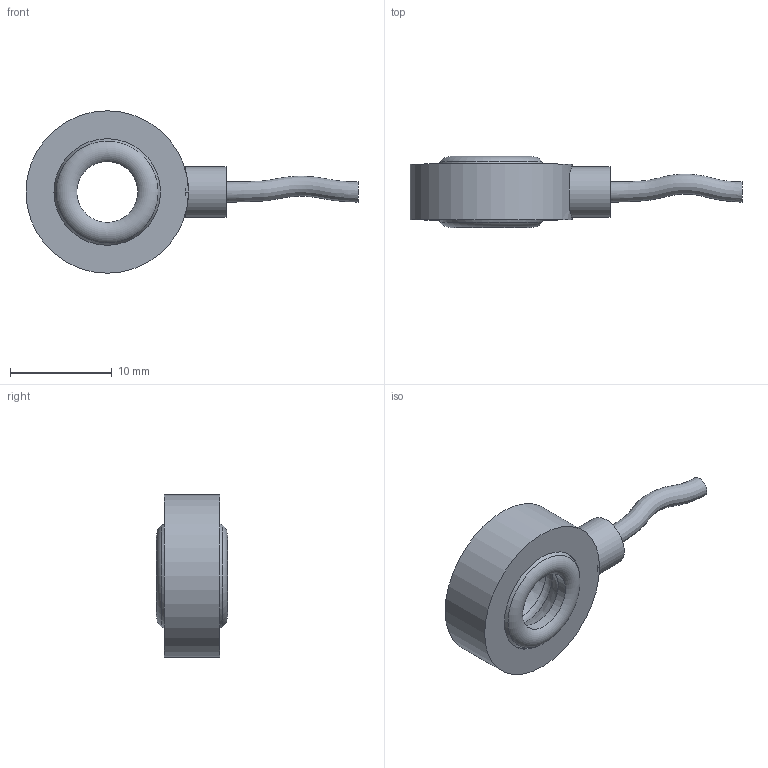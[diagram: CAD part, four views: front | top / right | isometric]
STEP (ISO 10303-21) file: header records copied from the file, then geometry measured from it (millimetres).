
FILE_DESCRIPTION(/* description */ ('Alibre Inc.'),/* implementation_level */ '2;1');
FILE_NAME(/* name */ 'export-3890F3CE-D4E1-4CB5-8066-64935C8FF821',/* time_stamp */ '2019-05-16T08:54:59+02:00',/* author */ (''),/* organization */ (''),/* preprocessor_version */ 'ST-DEVELOPER v17',/* originating_system */ 'Alibre',/* authorisation */ '');
FILE_SCHEMA (('CONFIG_CONTROL_DESIGN'));
Length unit declared in the file: centimetre
Products named in the file (7): ID_1; ID_2; ID_3; ID_4; ID_5
Bounding box: 32.7 x 7 x 16 mm (x, y, z)
Volume: 1315.9 mm3; surface area: 2075.7 mm2
Topology: 6 solids, 6 shells, 49 faces, 94 edges, 55 vertices
Faces by surface type: cylinder 20, plane 12, cone 10, torus 6, bspline 1
Full cylindrical faces by diameter (mm): 2.2 x1, 3.4 x1, 3.5 x1, 5 x1, 6 x4, 10.5 x1, 11.25 x1, 12 x2, 13.5 x1, 14.5 x1, 14.6 x1, 16 x1
Entity records: 1776 total; most frequent: CARTESIAN_POINT 361, DIRECTION 155, ORIENTED_EDGE 98, AXIS2_PLACEMENT_3D 83, EDGE_LOOP 71, FACE_BOUND 71, PERSON_AND_ORGANIZATION 70, COORDINATED_UNIVERSAL_TIME_OFFSET 49
